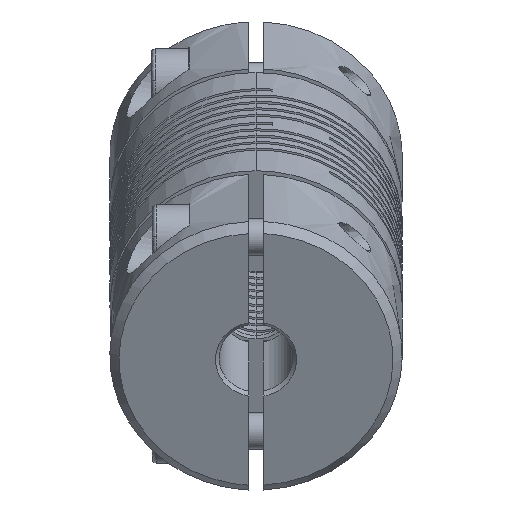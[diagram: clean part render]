
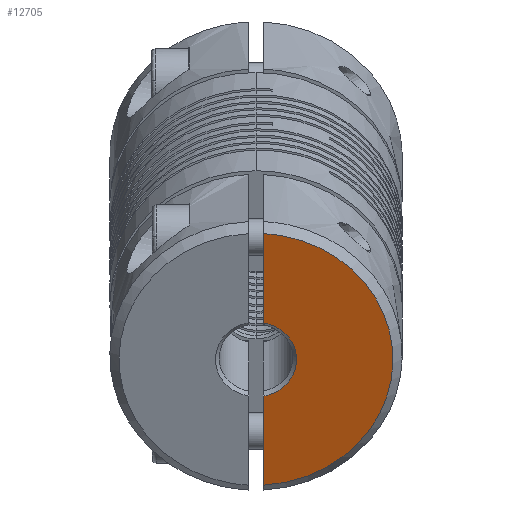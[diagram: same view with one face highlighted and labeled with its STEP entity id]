
A CAD part, top view. The second image highlights one B-rep face of the part: STEP entity #12705.
In plain terms, the highlighted free-form (B-spline) face has degree [3, 3] with [4, 4] control points.
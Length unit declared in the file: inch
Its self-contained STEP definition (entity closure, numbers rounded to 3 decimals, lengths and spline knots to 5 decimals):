
#3604=CARTESIAN_POINT('',(-0.81649,0.8291,
0.58092));
#3754=CARTESIAN_POINT('',(-0.81649,0.4483,
0.41737));
#3761=CARTESIAN_POINT('',(-0.81649,1.14214,
0.71536));
#3762=CARTESIAN_POINT('',(-0.79833,1.13905,
0.71404));
#3763=CARTESIAN_POINT('',(-0.77024,1.13002,
0.71016));
#3764=CARTESIAN_POINT('',(-0.73632,1.10843,
0.70088));
#3765=CARTESIAN_POINT('',(-0.71409,1.08799,
0.6921));
#3766=CARTESIAN_POINT('',(-0.69625,1.06419,
0.68188));
#3767=CARTESIAN_POINT('',(-0.68356,1.03826,
0.67075));
#3768=CARTESIAN_POINT('',(-0.67746,1.01603,
0.6612));
#3769=CARTESIAN_POINT('',(-0.67513,0.99845,
0.65365));
#3770=CARTESIAN_POINT('',(-0.67457,0.98562,
0.64814));
#3771=CARTESIAN_POINT('',(-0.67513,0.97279,
0.64263));
#3772=CARTESIAN_POINT('',(-0.67746,0.95521,0.63508));
#3773=CARTESIAN_POINT('',(-0.68356,0.93298,
0.62553));
#3774=CARTESIAN_POINT('',(-0.69625,0.90706,
0.6144));
#3775=CARTESIAN_POINT('',(-0.71409,0.88326,
0.60418));
#3776=CARTESIAN_POINT('',(-0.73632,0.86282,
0.5954));
#3777=CARTESIAN_POINT('',(-0.77024,0.84122,
0.58612));
#3778=CARTESIAN_POINT('',(-0.79833,0.83219,
0.58224));
#3779=CARTESIAN_POINT('',(-0.81649,0.8291,
0.58092));
#3781=DIRECTION('',(0.,-0.919,-0.395));
#3782=VECTOR('',#3781,0.41444);
#3783=CARTESIAN_POINT('',(-0.81649,1.52294,
0.87891));
#3784=LINE('',#3783,#3782);
#3785=CARTESIAN_POINT('',(-0.81649,0.4483,
0.41737));
#3786=CARTESIAN_POINT('',(-0.78295,0.44996,
0.41808));
#3787=CARTESIAN_POINT('',(-0.71383,0.45872,
0.42185));
#3788=CARTESIAN_POINT('',(-0.60886,0.49078,
0.43562));
#3789=CARTESIAN_POINT('',(-0.50871,0.5427,
0.45791));
#3790=CARTESIAN_POINT('',(-0.41994,0.61313,
0.48816));
#3791=CARTESIAN_POINT('',(-0.34823,0.69839,
0.52478));
#3792=CARTESIAN_POINT('',(-0.30578,0.77726,
0.55865));
#3793=CARTESIAN_POINT('',(-0.2827,0.84202,
0.58647));
#3794=CARTESIAN_POINT('',(-0.27071,0.89071,
0.60738));
#3795=CARTESIAN_POINT('',(-0.26495,0.93082,
0.6246));
#3796=CARTESIAN_POINT('',(-0.26272,0.96239,
0.63816));
#3797=CARTESIAN_POINT('',(-0.26217,0.98562,
0.64814));
#3798=CARTESIAN_POINT('',(-0.26272,1.00885,
0.65812));
#3799=CARTESIAN_POINT('',(-0.26495,1.04042,
0.67168));
#3800=CARTESIAN_POINT('',(-0.27071,1.08053,
0.6889));
#3801=CARTESIAN_POINT('',(-0.2827,1.12922,
0.70981));
#3802=CARTESIAN_POINT('',(-0.30578,1.19398,
0.73763));
#3803=CARTESIAN_POINT('',(-0.34823,1.27285,
0.7715));
#3804=CARTESIAN_POINT('',(-0.41994,1.35811,
0.80812));
#3805=CARTESIAN_POINT('',(-0.50871,1.42854,
0.83837));
#3806=CARTESIAN_POINT('',(-0.60886,1.48046,
0.86066));
#3807=CARTESIAN_POINT('',(-0.71383,1.51252,
0.87443));
#3808=CARTESIAN_POINT('',(-0.78295,1.52128,
0.8782));
#3809=CARTESIAN_POINT('',(-0.81649,1.52294,
0.87891));
#3811=DIRECTION('',(0.,-0.919,-0.395));
#3812=VECTOR('',#3811,0.41444);
#3813=CARTESIAN_POINT('',(-0.81649,0.8291,
0.58092));
#3814=LINE('',#3813,#3812);
#5703=VERTEX_POINT('',#3604);
#5704=VERTEX_POINT('',#3761);
#5709=CARTESIAN_POINT('',(-0.81649,1.52294,
0.87891));
#5710=VERTEX_POINT('',#5709);
#5842=VERTEX_POINT('',#3754);
#12682=CARTESIAN_POINT('',(-0.25074,0.42681,
0.40814));
#12683=CARTESIAN_POINT('',(-0.44302,0.42681,
0.40814));
#12684=CARTESIAN_POINT('',(-0.6353,0.42681,
0.40814));
#12685=CARTESIAN_POINT('',(-0.82758,0.42681,
0.40814));
#12686=CARTESIAN_POINT('',(-0.25074,0.79935,
0.56814));
#12687=CARTESIAN_POINT('',(-0.44302,0.79935,
0.56814));
#12688=CARTESIAN_POINT('',(-0.6353,0.79935,
0.56814));
#12689=CARTESIAN_POINT('',(-0.82758,0.79935,
0.56814));
#12690=CARTESIAN_POINT('',(-0.25074,1.17189,
0.72814));
#12691=CARTESIAN_POINT('',(-0.44302,1.17189,
0.72814));
#12692=CARTESIAN_POINT('',(-0.6353,1.17189,
0.72814));
#12693=CARTESIAN_POINT('',(-0.82758,1.17189,
0.72814));
#12694=CARTESIAN_POINT('',(-0.25074,1.54444,
0.88814));
#12695=CARTESIAN_POINT('',(-0.44302,1.54444,
0.88814));
#12696=CARTESIAN_POINT('',(-0.6353,1.54444,
0.88814));
#12697=CARTESIAN_POINT('',(-0.82758,1.54444,
0.88814));
#12698=B_SPLINE_SURFACE_WITH_KNOTS('',3,3,((#12682,#12683,#12684,#12685),
(#12686,#12687,#12688,#12689),(#12690,#12691,#12692,#12693),(#12694,#12695,
#12696,#12697)),.UNSPECIFIED.,.F.,.F.,.F.,(4,4),(4,4),(-1.54476,
1.54476),(-1.51701,-0.05182),.UNSPECIFIED.);
#12699=ORIENTED_EDGE('',*,*,#12534,.F.);
#12700=ORIENTED_EDGE('',*,*,#12634,.F.);
#12701=ORIENTED_EDGE('',*,*,#12670,.F.);
#12702=ORIENTED_EDGE('',*,*,#12486,.F.);
#12703=EDGE_LOOP('',(#12699,#12700,#12701,#12702));
#12704=FACE_OUTER_BOUND('',#12703,.F.);
#3780=B_SPLINE_CURVE_WITH_KNOTS('',3,(#3761,#3762,#3763,#3764,#3765,#3766,#3767,
#3768,#3769,#3770,#3771,#3772,#3773,#3774,#3775,#3776,#3777,#3778,#3779),
.UNSPECIFIED.,.F.,.F.,(4,1,1,1,1,1,1,1,1,1,1,1,1,1,1,1,4),(0.,0.125,
0.1875,0.25,0.3125,0.375,0.4375,0.46875,0.5,0.53125,0.5625,
0.625,0.6875,0.75,0.8125,0.875,1.),.UNSPECIFIED.);
#3810=B_SPLINE_CURVE_WITH_KNOTS('',3,(#3785,#3786,#3787,#3788,#3789,#3790,#3791,
#3792,#3793,#3794,#3795,#3796,#3797,#3798,#3799,#3800,#3801,#3802,#3803,#3804,
#3805,#3806,#3807,#3808,#3809),.UNSPECIFIED.,.F.,.F.,(4,1,1,1,1,1,1,1,1,1,1,1,1,
1,1,1,1,1,1,1,1,1,4),(0.,0.0625,0.125,0.1875,0.25,0.3125,0.375,
0.40625,0.4375,0.46875,0.48438,0.5,0.51563,0.53125,0.5625,
0.59375,0.625,0.6875,0.75,0.8125,0.875,0.9375,1.),
.UNSPECIFIED.);
#12486=EDGE_CURVE('',#5703,#5842,#3814,.T.);
#12534=EDGE_CURVE('',#5704,#5703,#3780,.T.);
#12634=EDGE_CURVE('',#5710,#5704,#3784,.T.);
#12670=EDGE_CURVE('',#5842,#5710,#3810,.T.);
#12705=ADVANCED_FACE('',(#12704),#12698,.T.);
